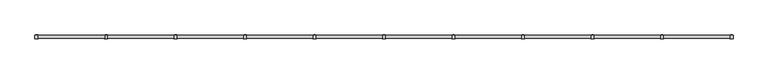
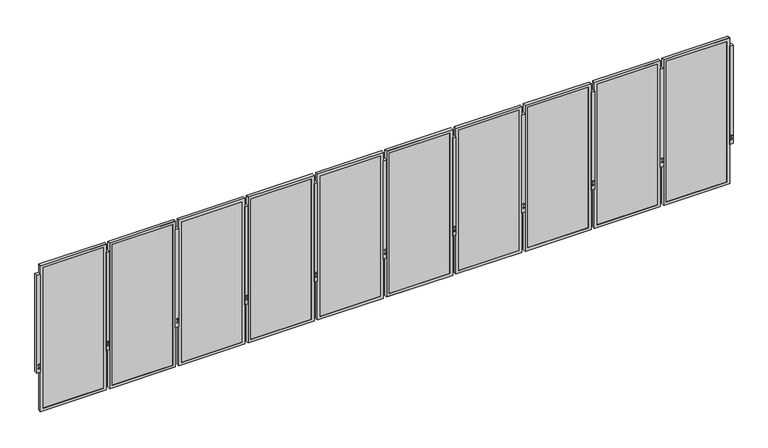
"""IFC4 building model written with IfcOpenShell, lengths in millimetres: railing geometry, Railing - Amico Architectural - Expanded Mesh Railing - Apex04."""

from ifc_helpers import new_model, si_unit, frame, origin, place, context, project, spatial, polyline, outline, extrude, faceted_brep, source, transform, mapped, element, save


def railing_bb2afcd9(model_context):
    return source(origin(), model_context, "Body", "SolidModel", [
        extrude(outline(polyline([(-3162.833702, -25628.979979), (-3112.033702, -25628.979979), (-3112.033702, -25679.779979), (-3162.833702, -25679.779979), (-3162.833702, -25628.979979)])), frame((0.0, 0.0, -609.6), z_axis=(0.0, 0.0, 1.0), x_axis=(1.0, 0.0, 0.0)), (0.0, 0.0, 1.0), 1524.0),
        extrude(outline(polyline([(-530.1129981, -3147.8542722), (-542.3802561, -3144.5672704), (-545.667258, -3132.3000124), (-536.6870019, -3123.3197562), (-524.4197439, -3126.6067581), (-521.132742, -3138.8740161), (-530.1129981, -3147.8542722)])), frame((0.0, -25681.6266668, 0.0), z_axis=(0.0, 1.0, 0.0), x_axis=(0.0, 0.0, 1.0)), (0.0, 0.0, 1.0), 54.4933756),
        extrude(outline(polyline([(-479.3129981, -3147.8542722), (-491.5802561, -3144.5672704), (-494.867258, -3132.3000124), (-485.8870019, -3123.3197562), (-473.6197439, -3126.6067581), (-470.332742, -3138.8740161), (-479.3129981, -3147.8542722)])), frame((0.0, -25681.6266668, 0.0), z_axis=(0.0, 1.0, 0.0), x_axis=(0.0, 0.0, 1.0)), (0.0, 0.0, 1.0), 54.4933756),
        faceted_brep([(-4129.2381554, -25676.173179, -1222.375), (-3160.8631554, -25676.173179, -1222.375), (-3160.8631554, -25676.173179, 1044.575), (-4129.2381554, -25676.173179, 1044.575), (-4087.9631554, -25676.173179, 1003.3), (-3202.1381554, -25676.173179, 1003.3), (-3202.1381554, -25676.173179, -1181.1), (-4087.9631554, -25676.173179, -1181.1), (-4087.9631554, -25673.429979, 1003.3), (-4087.9631554, -25673.429979, -1181.1), (-4129.2381554, -25632.2998825, 1044.575), (-4129.2381554, -25632.2998825, -1222.375), (-4126.0631554, -25632.2998825, 1041.4), (-4126.0631554, -25673.429979, 1041.4), (-4126.0631554, -25673.429979, -1219.2), (-4126.0631554, -25632.2998825, -1219.2), (-3202.1381554, -25673.429979, -1181.1), (-3160.8631554, -25632.2998825, -1222.375), (-3164.0381554, -25673.429979, -1219.2), (-3164.0381554, -25632.2998825, -1219.2), (-3202.1381554, -25673.429979, 1003.3), (-3160.8631554, -25632.2998825, 1044.575), (-3164.0381554, -25673.429979, 1041.4), (-3164.0381554, -25632.2998825, 1041.4)], [[[0, 1, 2, 3], [4, 5, 6, 7]], [[8, 4, 7, 9]], [[3, 10, 11, 0]], [[12, 13, 14, 15]], [[9, 7, 6, 16]], [[0, 11, 17, 1]], [[15, 14, 18, 19]], [[16, 6, 5, 20]], [[1, 17, 21, 2]], [[19, 18, 22, 23]], [[20, 5, 4, 8]], [[10, 21, 17, 11], [15, 19, 23, 12]], [[2, 21, 10, 3]], [[13, 22, 18, 14], [9, 16, 20, 8]], [[23, 22, 13, 12]]]),
        extrude(outline(polyline([(-4126.0631554, -25663.904979), (-3164.0381554, -25663.904979), (-3164.0381554, -25673.429979), (-4126.0631554, -25673.429979), (-4126.0631554, -25663.904979)])), frame((0.0, 0.0, -1219.2), z_axis=(0.0, 0.0, 1.0), x_axis=(1.0, 0.0, 0.0)), (0.0, 0.0, 1.0), 2260.6),
        extrude(outline(polyline([(-4180.421202, -25628.979979), (-4129.621202, -25628.979979), (-4129.621202, -25679.779979), (-4180.421202, -25679.779979), (-4180.421202, -25628.979979)])), frame((0.0, 0.0, -609.6), z_axis=(0.0, 0.0, 1.0), x_axis=(1.0, 0.0, 0.0)), (0.0, 0.0, 1.0), 1524.0),
        extrude(outline(polyline([(-530.1129981, -4165.4417722), (-542.3802561, -4162.1547704), (-545.667258, -4149.8875124), (-536.6870019, -4140.9072562), (-524.4197439, -4144.1942581), (-521.132742, -4156.4615161), (-530.1129981, -4165.4417722)])), frame((0.0, -25681.6266668, 0.0), z_axis=(0.0, 1.0, 0.0), x_axis=(0.0, 0.0, 1.0)), (0.0, 0.0, 1.0), 54.4933756),
        extrude(outline(polyline([(-479.3129981, -4165.4417722), (-491.5802561, -4162.1547704), (-494.867258, -4149.8875124), (-485.8870019, -4140.9072562), (-473.6197439, -4144.1942581), (-470.332742, -4156.4615161), (-479.3129981, -4165.4417722)])), frame((0.0, -25681.6266668, 0.0), z_axis=(0.0, 1.0, 0.0), x_axis=(0.0, 0.0, 1.0)), (0.0, 0.0, 1.0), 54.4933756),
        faceted_brep([(-5146.8256554, -25676.173179, -1222.375), (-4178.4506554, -25676.173179, -1222.375), (-4178.4506554, -25676.173179, 1044.575), (-5146.8256554, -25676.173179, 1044.575), (-5105.5506554, -25676.173179, 1003.3), (-4219.7256554, -25676.173179, 1003.3), (-4219.7256554, -25676.173179, -1181.1), (-5105.5506554, -25676.173179, -1181.1), (-5105.5506554, -25673.429979, 1003.3), (-5105.5506554, -25673.429979, -1181.1), (-5146.8256554, -25632.2998825, 1044.575), (-5146.8256554, -25632.2998825, -1222.375), (-5143.6506554, -25632.2998825, 1041.4), (-5143.6506554, -25673.429979, 1041.4), (-5143.6506554, -25673.429979, -1219.2), (-5143.6506554, -25632.2998825, -1219.2), (-4219.7256554, -25673.429979, -1181.1), (-4178.4506554, -25632.2998825, -1222.375), (-4181.6256554, -25673.429979, -1219.2), (-4181.6256554, -25632.2998825, -1219.2), (-4219.7256554, -25673.429979, 1003.3), (-4178.4506554, -25632.2998825, 1044.575), (-4181.6256554, -25673.429979, 1041.4), (-4181.6256554, -25632.2998825, 1041.4)], [[[0, 1, 2, 3], [4, 5, 6, 7]], [[8, 4, 7, 9]], [[3, 10, 11, 0]], [[12, 13, 14, 15]], [[9, 7, 6, 16]], [[0, 11, 17, 1]], [[15, 14, 18, 19]], [[16, 6, 5, 20]], [[1, 17, 21, 2]], [[19, 18, 22, 23]], [[20, 5, 4, 8]], [[10, 21, 17, 11], [15, 19, 23, 12]], [[2, 21, 10, 3]], [[13, 22, 18, 14], [9, 16, 20, 8]], [[23, 22, 13, 12]]]),
        extrude(outline(polyline([(-5143.6506554, -25663.904979), (-4181.6256554, -25663.904979), (-4181.6256554, -25673.429979), (-5143.6506554, -25673.429979), (-5143.6506554, -25663.904979)])), frame((0.0, 0.0, -1219.2), z_axis=(0.0, 0.0, 1.0), x_axis=(1.0, 0.0, 0.0)), (0.0, 0.0, 1.0), 2260.6),
        extrude(outline(polyline([(-5198.008702, -25628.979979), (-5147.208702, -25628.979979), (-5147.208702, -25679.779979), (-5198.008702, -25679.779979), (-5198.008702, -25628.979979)])), frame((0.0, 0.0, -609.6), z_axis=(0.0, 0.0, 1.0), x_axis=(1.0, 0.0, 0.0)), (0.0, 0.0, 1.0), 1524.0),
        extrude(outline(polyline([(-530.1129981, -5183.0292722), (-542.3802561, -5179.7422704), (-545.667258, -5167.4750124), (-536.6870019, -5158.4947562), (-524.4197439, -5161.7817581), (-521.132742, -5174.0490161), (-530.1129981, -5183.0292722)])), frame((0.0, -25681.6266668, 0.0), z_axis=(0.0, 1.0, 0.0), x_axis=(0.0, 0.0, 1.0)), (0.0, 0.0, 1.0), 54.4933756),
        extrude(outline(polyline([(-479.3129981, -5183.0292722), (-491.5802561, -5179.7422704), (-494.867258, -5167.4750124), (-485.8870019, -5158.4947562), (-473.6197439, -5161.7817581), (-470.332742, -5174.0490161), (-479.3129981, -5183.0292722)])), frame((0.0, -25681.6266668, 0.0), z_axis=(0.0, 1.0, 0.0), x_axis=(0.0, 0.0, 1.0)), (0.0, 0.0, 1.0), 54.4933756),
        faceted_brep([(-6164.4131554, -25676.173179, -1222.375), (-5196.0381554, -25676.173179, -1222.375), (-5196.0381554, -25676.173179, 1044.575), (-6164.4131554, -25676.173179, 1044.575), (-6123.1381554, -25676.173179, 1003.3), (-5237.3131554, -25676.173179, 1003.3), (-5237.3131554, -25676.173179, -1181.1), (-6123.1381554, -25676.173179, -1181.1), (-6123.1381554, -25673.429979, 1003.3), (-6123.1381554, -25673.429979, -1181.1), (-6164.4131554, -25632.2998825, 1044.575), (-6164.4131554, -25632.2998825, -1222.375), (-6161.2381554, -25632.2998825, 1041.4), (-6161.2381554, -25673.429979, 1041.4), (-6161.2381554, -25673.429979, -1219.2), (-6161.2381554, -25632.2998825, -1219.2), (-5237.3131554, -25673.429979, -1181.1), (-5196.0381554, -25632.2998825, -1222.375), (-5199.2131554, -25673.429979, -1219.2), (-5199.2131554, -25632.2998825, -1219.2), (-5237.3131554, -25673.429979, 1003.3), (-5196.0381554, -25632.2998825, 1044.575), (-5199.2131554, -25673.429979, 1041.4), (-5199.2131554, -25632.2998825, 1041.4)], [[[0, 1, 2, 3], [4, 5, 6, 7]], [[8, 4, 7, 9]], [[3, 10, 11, 0]], [[12, 13, 14, 15]], [[9, 7, 6, 16]], [[0, 11, 17, 1]], [[15, 14, 18, 19]], [[16, 6, 5, 20]], [[1, 17, 21, 2]], [[19, 18, 22, 23]], [[20, 5, 4, 8]], [[10, 21, 17, 11], [15, 19, 23, 12]], [[2, 21, 10, 3]], [[13, 22, 18, 14], [9, 16, 20, 8]], [[23, 22, 13, 12]]]),
        extrude(outline(polyline([(-6161.2381554, -25663.904979), (-5199.2131554, -25663.904979), (-5199.2131554, -25673.429979), (-6161.2381554, -25673.429979), (-6161.2381554, -25663.904979)])), frame((0.0, 0.0, -1219.2), z_axis=(0.0, 0.0, 1.0), x_axis=(1.0, 0.0, 0.0)), (0.0, 0.0, 1.0), 2260.6),
        extrude(outline(polyline([(-6215.596202, -25628.979979), (-6164.796202, -25628.979979), (-6164.796202, -25679.779979), (-6215.596202, -25679.779979), (-6215.596202, -25628.979979)])), frame((0.0, 0.0, -609.6), z_axis=(0.0, 0.0, 1.0), x_axis=(1.0, 0.0, 0.0)), (0.0, 0.0, 1.0), 1524.0),
        extrude(outline(polyline([(-530.1129981, -6200.6167722), (-542.3802561, -6197.3297704), (-545.667258, -6185.0625124), (-536.6870019, -6176.0822562), (-524.4197439, -6179.3692581), (-521.132742, -6191.6365161), (-530.1129981, -6200.6167722)])), frame((0.0, -25681.6266668, 0.0), z_axis=(0.0, 1.0, 0.0), x_axis=(0.0, 0.0, 1.0)), (0.0, 0.0, 1.0), 54.4933756),
        extrude(outline(polyline([(-479.3129981, -6200.6167722), (-491.5802561, -6197.3297704), (-494.867258, -6185.0625124), (-485.8870019, -6176.0822562), (-473.6197439, -6179.3692581), (-470.332742, -6191.6365161), (-479.3129981, -6200.6167722)])), frame((0.0, -25681.6266668, 0.0), z_axis=(0.0, 1.0, 0.0), x_axis=(0.0, 0.0, 1.0)), (0.0, 0.0, 1.0), 54.4933756),
        faceted_brep([(-7182.0006554, -25676.173179, -1222.375), (-6213.6256554, -25676.173179, -1222.375), (-6213.6256554, -25676.173179, 1044.575), (-7182.0006554, -25676.173179, 1044.575), (-7140.7256554, -25676.173179, 1003.3), (-6254.9006554, -25676.173179, 1003.3), (-6254.9006554, -25676.173179, -1181.1), (-7140.7256554, -25676.173179, -1181.1), (-7140.7256554, -25673.429979, 1003.3), (-7140.7256554, -25673.429979, -1181.1), (-7182.0006554, -25632.2998825, 1044.575), (-7182.0006554, -25632.2998825, -1222.375), (-7178.8256554, -25632.2998825, 1041.4), (-7178.8256554, -25673.429979, 1041.4), (-7178.8256554, -25673.429979, -1219.2), (-7178.8256554, -25632.2998825, -1219.2), (-6254.9006554, -25673.429979, -1181.1), (-6213.6256554, -25632.2998825, -1222.375), (-6216.8006554, -25673.429979, -1219.2), (-6216.8006554, -25632.2998825, -1219.2), (-6254.9006554, -25673.429979, 1003.3), (-6213.6256554, -25632.2998825, 1044.575), (-6216.8006554, -25673.429979, 1041.4), (-6216.8006554, -25632.2998825, 1041.4)], [[[0, 1, 2, 3], [4, 5, 6, 7]], [[8, 4, 7, 9]], [[3, 10, 11, 0]], [[12, 13, 14, 15]], [[9, 7, 6, 16]], [[0, 11, 17, 1]], [[15, 14, 18, 19]], [[16, 6, 5, 20]], [[1, 17, 21, 2]], [[19, 18, 22, 23]], [[20, 5, 4, 8]], [[10, 21, 17, 11], [15, 19, 23, 12]], [[2, 21, 10, 3]], [[13, 22, 18, 14], [9, 16, 20, 8]], [[23, 22, 13, 12]]]),
        extrude(outline(polyline([(-7178.8256554, -25663.904979), (-6216.8006554, -25663.904979), (-6216.8006554, -25673.429979), (-7178.8256554, -25673.429979), (-7178.8256554, -25663.904979)])), frame((0.0, 0.0, -1219.2), z_axis=(0.0, 0.0, 1.0), x_axis=(1.0, 0.0, 0.0)), (0.0, 0.0, 1.0), 2260.6),
        extrude(outline(polyline([(-7233.183702, -25628.979979), (-7182.383702, -25628.979979), (-7182.383702, -25679.779979), (-7233.183702, -25679.779979), (-7233.183702, -25628.979979)])), frame((0.0, 0.0, -609.6), z_axis=(0.0, 0.0, 1.0), x_axis=(1.0, 0.0, 0.0)), (0.0, 0.0, 1.0), 1524.0),
        extrude(outline(polyline([(-530.1129981, -7218.2042722), (-542.3802561, -7214.9172704), (-545.667258, -7202.6500124), (-536.6870019, -7193.6697562), (-524.4197439, -7196.9567581), (-521.132742, -7209.2240161), (-530.1129981, -7218.2042722)])), frame((0.0, -25681.6266668, 0.0), z_axis=(0.0, 1.0, 0.0), x_axis=(0.0, 0.0, 1.0)), (0.0, 0.0, 1.0), 54.4933756),
        extrude(outline(polyline([(-479.3129981, -7218.2042722), (-491.5802561, -7214.9172704), (-494.867258, -7202.6500124), (-485.8870019, -7193.6697562), (-473.6197439, -7196.9567581), (-470.332742, -7209.2240161), (-479.3129981, -7218.2042722)])), frame((0.0, -25681.6266668, 0.0), z_axis=(0.0, 1.0, 0.0), x_axis=(0.0, 0.0, 1.0)), (0.0, 0.0, 1.0), 54.4933756),
        faceted_brep([(-8199.5881554, -25676.173179, -1222.375), (-7231.2131554, -25676.173179, -1222.375), (-7231.2131554, -25676.173179, 1044.575), (-8199.5881554, -25676.173179, 1044.575), (-8158.3131554, -25676.173179, 1003.3), (-7272.4881554, -25676.173179, 1003.3), (-7272.4881554, -25676.173179, -1181.1), (-8158.3131554, -25676.173179, -1181.1), (-8158.3131554, -25673.429979, 1003.3), (-8158.3131554, -25673.429979, -1181.1), (-8199.5881554, -25632.2998825, 1044.575), (-8199.5881554, -25632.2998825, -1222.375), (-8196.4131554, -25632.2998825, 1041.4), (-8196.4131554, -25673.429979, 1041.4), (-8196.4131554, -25673.429979, -1219.2), (-8196.4131554, -25632.2998825, -1219.2), (-7272.4881554, -25673.429979, -1181.1), (-7231.2131554, -25632.2998825, -1222.375), (-7234.3881554, -25673.429979, -1219.2), (-7234.3881554, -25632.2998825, -1219.2), (-7272.4881554, -25673.429979, 1003.3), (-7231.2131554, -25632.2998825, 1044.575), (-7234.3881554, -25673.429979, 1041.4), (-7234.3881554, -25632.2998825, 1041.4)], [[[0, 1, 2, 3], [4, 5, 6, 7]], [[8, 4, 7, 9]], [[3, 10, 11, 0]], [[12, 13, 14, 15]], [[9, 7, 6, 16]], [[0, 11, 17, 1]], [[15, 14, 18, 19]], [[16, 6, 5, 20]], [[1, 17, 21, 2]], [[19, 18, 22, 23]], [[20, 5, 4, 8]], [[10, 21, 17, 11], [15, 19, 23, 12]], [[2, 21, 10, 3]], [[13, 22, 18, 14], [9, 16, 20, 8]], [[23, 22, 13, 12]]]),
        extrude(outline(polyline([(-8196.4131554, -25663.904979), (-7234.3881554, -25663.904979), (-7234.3881554, -25673.429979), (-8196.4131554, -25673.429979), (-8196.4131554, -25663.904979)])), frame((0.0, 0.0, -1219.2), z_axis=(0.0, 0.0, 1.0), x_axis=(1.0, 0.0, 0.0)), (0.0, 0.0, 1.0), 2260.6),
        extrude(outline(polyline([(-8250.771202, -25628.979979), (-8199.971202, -25628.979979), (-8199.971202, -25679.779979), (-8250.771202, -25679.779979), (-8250.771202, -25628.979979)])), frame((0.0, 0.0, -609.6), z_axis=(0.0, 0.0, 1.0), x_axis=(1.0, 0.0, 0.0)), (0.0, 0.0, 1.0), 1524.0),
        extrude(outline(polyline([(-530.1129981, -8235.7917722), (-542.3802561, -8232.5047704), (-545.667258, -8220.2375124), (-536.6870019, -8211.2572562), (-524.4197439, -8214.5442581), (-521.132742, -8226.8115161), (-530.1129981, -8235.7917722)])), frame((0.0, -25681.6266668, 0.0), z_axis=(0.0, 1.0, 0.0), x_axis=(0.0, 0.0, 1.0)), (0.0, 0.0, 1.0), 54.4933756),
        extrude(outline(polyline([(-479.3129981, -8235.7917722), (-491.5802561, -8232.5047704), (-494.867258, -8220.2375124), (-485.8870019, -8211.2572562), (-473.6197439, -8214.5442581), (-470.332742, -8226.8115161), (-479.3129981, -8235.7917722)])), frame((0.0, -25681.6266668, 0.0), z_axis=(0.0, 1.0, 0.0), x_axis=(0.0, 0.0, 1.0)), (0.0, 0.0, 1.0), 54.4933756),
        faceted_brep([(-9217.1756554, -25676.173179, -1222.375), (-8248.8006554, -25676.173179, -1222.375), (-8248.8006554, -25676.173179, 1044.575), (-9217.1756554, -25676.173179, 1044.575), (-9175.9006554, -25676.173179, 1003.3), (-8290.0756554, -25676.173179, 1003.3), (-8290.0756554, -25676.173179, -1181.1), (-9175.9006554, -25676.173179, -1181.1), (-9175.9006554, -25673.429979, 1003.3), (-9175.9006554, -25673.429979, -1181.1), (-9217.1756554, -25632.2998825, 1044.575), (-9217.1756554, -25632.2998825, -1222.375), (-9214.0006554, -25632.2998825, 1041.4), (-9214.0006554, -25673.429979, 1041.4), (-9214.0006554, -25673.429979, -1219.2), (-9214.0006554, -25632.2998825, -1219.2), (-8290.0756554, -25673.429979, -1181.1), (-8248.8006554, -25632.2998825, -1222.375), (-8251.9756554, -25673.429979, -1219.2), (-8251.9756554, -25632.2998825, -1219.2), (-8290.0756554, -25673.429979, 1003.3), (-8248.8006554, -25632.2998825, 1044.575), (-8251.9756554, -25673.429979, 1041.4), (-8251.9756554, -25632.2998825, 1041.4)], [[[0, 1, 2, 3], [4, 5, 6, 7]], [[8, 4, 7, 9]], [[3, 10, 11, 0]], [[12, 13, 14, 15]], [[9, 7, 6, 16]], [[0, 11, 17, 1]], [[15, 14, 18, 19]], [[16, 6, 5, 20]], [[1, 17, 21, 2]], [[19, 18, 22, 23]], [[20, 5, 4, 8]], [[10, 21, 17, 11], [15, 19, 23, 12]], [[2, 21, 10, 3]], [[13, 22, 18, 14], [9, 16, 20, 8]], [[23, 22, 13, 12]]]),
        extrude(outline(polyline([(-9214.0006554, -25663.904979), (-8251.9756554, -25663.904979), (-8251.9756554, -25673.429979), (-9214.0006554, -25673.429979), (-9214.0006554, -25663.904979)])), frame((0.0, 0.0, -1219.2), z_axis=(0.0, 0.0, 1.0), x_axis=(1.0, 0.0, 0.0)), (0.0, 0.0, 1.0), 2260.6),
        extrude(outline(polyline([(-9268.358702, -25628.979979), (-9217.558702, -25628.979979), (-9217.558702, -25679.779979), (-9268.358702, -25679.779979), (-9268.358702, -25628.979979)])), frame((0.0, 0.0, -609.6), z_axis=(0.0, 0.0, 1.0), x_axis=(1.0, 0.0, 0.0)), (0.0, 0.0, 1.0), 1524.0),
        extrude(outline(polyline([(-530.1129981, -9253.3792722), (-542.3802561, -9250.0922704), (-545.667258, -9237.8250124), (-536.6870019, -9228.8447562), (-524.4197439, -9232.1317581), (-521.132742, -9244.3990161), (-530.1129981, -9253.3792722)])), frame((0.0, -25681.6266668, 0.0), z_axis=(0.0, 1.0, 0.0), x_axis=(0.0, 0.0, 1.0)), (0.0, 0.0, 1.0), 54.4933756),
        extrude(outline(polyline([(-479.3129981, -9253.3792722), (-491.5802561, -9250.0922704), (-494.867258, -9237.8250124), (-485.8870019, -9228.8447562), (-473.6197439, -9232.1317581), (-470.332742, -9244.3990161), (-479.3129981, -9253.3792722)])), frame((0.0, -25681.6266668, 0.0), z_axis=(0.0, 1.0, 0.0), x_axis=(0.0, 0.0, 1.0)), (0.0, 0.0, 1.0), 54.4933756),
        faceted_brep([(-10234.7631554, -25676.173179, -1222.375), (-9266.3881554, -25676.173179, -1222.375), (-9266.3881554, -25676.173179, 1044.575), (-10234.7631554, -25676.173179, 1044.575), (-10193.4881554, -25676.173179, 1003.3), (-9307.6631554, -25676.173179, 1003.3), (-9307.6631554, -25676.173179, -1181.1), (-10193.4881554, -25676.173179, -1181.1), (-10193.4881554, -25673.429979, 1003.3), (-10193.4881554, -25673.429979, -1181.1), (-10234.7631554, -25632.2998825, 1044.575), (-10234.7631554, -25632.2998825, -1222.375), (-10231.5881554, -25632.2998825, 1041.4), (-10231.5881554, -25673.429979, 1041.4), (-10231.5881554, -25673.429979, -1219.2), (-10231.5881554, -25632.2998825, -1219.2), (-9307.6631554, -25673.429979, -1181.1), (-9266.3881554, -25632.2998825, -1222.375), (-9269.5631554, -25673.429979, -1219.2), (-9269.5631554, -25632.2998825, -1219.2), (-9307.6631554, -25673.429979, 1003.3), (-9266.3881554, -25632.2998825, 1044.575), (-9269.5631554, -25673.429979, 1041.4), (-9269.5631554, -25632.2998825, 1041.4)], [[[0, 1, 2, 3], [4, 5, 6, 7]], [[8, 4, 7, 9]], [[3, 10, 11, 0]], [[12, 13, 14, 15]], [[9, 7, 6, 16]], [[0, 11, 17, 1]], [[15, 14, 18, 19]], [[16, 6, 5, 20]], [[1, 17, 21, 2]], [[19, 18, 22, 23]], [[20, 5, 4, 8]], [[10, 21, 17, 11], [15, 19, 23, 12]], [[2, 21, 10, 3]], [[13, 22, 18, 14], [9, 16, 20, 8]], [[23, 22, 13, 12]]]),
        extrude(outline(polyline([(-10231.5881554, -25663.904979), (-9269.5631554, -25663.904979), (-9269.5631554, -25673.429979), (-10231.5881554, -25673.429979), (-10231.5881554, -25663.904979)])), frame((0.0, 0.0, -1219.2), z_axis=(0.0, 0.0, 1.0), x_axis=(1.0, 0.0, 0.0)), (0.0, 0.0, 1.0), 2260.6),
        extrude(outline(polyline([(-10285.946202, -25628.979979), (-10235.146202, -25628.979979), (-10235.146202, -25679.779979), (-10285.946202, -25679.779979), (-10285.946202, -25628.979979)])), frame((0.0, 0.0, -609.6), z_axis=(0.0, 0.0, 1.0), x_axis=(1.0, 0.0, 0.0)), (0.0, 0.0, 1.0), 1524.0),
        extrude(outline(polyline([(-530.1129981, -10270.9667722), (-542.3802561, -10267.6797704), (-545.667258, -10255.4125124), (-536.6870019, -10246.4322562), (-524.4197439, -10249.7192581), (-521.132742, -10261.9865161), (-530.1129981, -10270.9667722)])), frame((0.0, -25681.6266668, 0.0), z_axis=(0.0, 1.0, 0.0), x_axis=(0.0, 0.0, 1.0)), (0.0, 0.0, 1.0), 54.4933756),
        extrude(outline(polyline([(-479.3129981, -10270.9667722), (-491.5802561, -10267.6797704), (-494.867258, -10255.4125124), (-485.8870019, -10246.4322562), (-473.6197439, -10249.7192581), (-470.332742, -10261.9865161), (-479.3129981, -10270.9667722)])), frame((0.0, -25681.6266668, 0.0), z_axis=(0.0, 1.0, 0.0), x_axis=(0.0, 0.0, 1.0)), (0.0, 0.0, 1.0), 54.4933756),
        faceted_brep([(-11252.3506554, -25676.173179, -1222.375), (-10283.9756554, -25676.173179, -1222.375), (-10283.9756554, -25676.173179, 1044.575), (-11252.3506554, -25676.173179, 1044.575), (-11211.0756554, -25676.173179, 1003.3), (-10325.2506554, -25676.173179, 1003.3), (-10325.2506554, -25676.173179, -1181.1), (-11211.0756554, -25676.173179, -1181.1), (-11211.0756554, -25673.429979, 1003.3), (-11211.0756554, -25673.429979, -1181.1), (-11252.3506554, -25632.2998825, 1044.575), (-11252.3506554, -25632.2998825, -1222.375), (-11249.1756554, -25632.2998825, 1041.4), (-11249.1756554, -25673.429979, 1041.4), (-11249.1756554, -25673.429979, -1219.2), (-11249.1756554, -25632.2998825, -1219.2), (-10325.2506554, -25673.429979, -1181.1), (-10283.9756554, -25632.2998825, -1222.375), (-10287.1506554, -25673.429979, -1219.2), (-10287.1506554, -25632.2998825, -1219.2), (-10325.2506554, -25673.429979, 1003.3), (-10283.9756554, -25632.2998825, 1044.575), (-10287.1506554, -25673.429979, 1041.4), (-10287.1506554, -25632.2998825, 1041.4)], [[[0, 1, 2, 3], [4, 5, 6, 7]], [[8, 4, 7, 9]], [[3, 10, 11, 0]], [[12, 13, 14, 15]], [[9, 7, 6, 16]], [[0, 11, 17, 1]], [[15, 14, 18, 19]], [[16, 6, 5, 20]], [[1, 17, 21, 2]], [[19, 18, 22, 23]], [[20, 5, 4, 8]], [[10, 21, 17, 11], [15, 19, 23, 12]], [[2, 21, 10, 3]], [[13, 22, 18, 14], [9, 16, 20, 8]], [[23, 22, 13, 12]]]),
        extrude(outline(polyline([(-11249.1756554, -25663.904979), (-10287.1506554, -25663.904979), (-10287.1506554, -25673.429979), (-11249.1756554, -25673.429979), (-11249.1756554, -25663.904979)])), frame((0.0, 0.0, -1219.2), z_axis=(0.0, 0.0, 1.0), x_axis=(1.0, 0.0, 0.0)), (0.0, 0.0, 1.0), 2260.6),
        extrude(outline(polyline([(-11303.533702, -25628.979979), (-11252.733702, -25628.979979), (-11252.733702, -25679.779979), (-11303.533702, -25679.779979), (-11303.533702, -25628.979979)])), frame((0.0, 0.0, -609.6), z_axis=(0.0, 0.0, 1.0), x_axis=(1.0, 0.0, 0.0)), (0.0, 0.0, 1.0), 1524.0),
        extrude(outline(polyline([(-530.1129981, -11288.5542722), (-542.3802561, -11285.2672704), (-545.667258, -11273.0000124), (-536.6870019, -11264.0197562), (-524.4197439, -11267.3067581), (-521.132742, -11279.5740161), (-530.1129981, -11288.5542722)])), frame((0.0, -25681.6266668, 0.0), z_axis=(0.0, 1.0, 0.0), x_axis=(0.0, 0.0, 1.0)), (0.0, 0.0, 1.0), 54.4933756),
        extrude(outline(polyline([(-479.3129981, -11288.5542722), (-491.5802561, -11285.2672704), (-494.867258, -11273.0000124), (-485.8870019, -11264.0197562), (-473.6197439, -11267.3067581), (-470.332742, -11279.5740161), (-479.3129981, -11288.5542722)])), frame((0.0, -25681.6266668, 0.0), z_axis=(0.0, 1.0, 0.0), x_axis=(0.0, 0.0, 1.0)), (0.0, 0.0, 1.0), 54.4933756),
        faceted_brep([(-12269.9381554, -25676.173179, -1222.375), (-11301.5631554, -25676.173179, -1222.375), (-11301.5631554, -25676.173179, 1044.575), (-12269.9381554, -25676.173179, 1044.575), (-12228.6631554, -25676.173179, 1003.3), (-11342.8381554, -25676.173179, 1003.3), (-11342.8381554, -25676.173179, -1181.1), (-12228.6631554, -25676.173179, -1181.1), (-12228.6631554, -25673.429979, 1003.3), (-12228.6631554, -25673.429979, -1181.1), (-12269.9381554, -25632.2998825, 1044.575), (-12269.9381554, -25632.2998825, -1222.375), (-12266.7631554, -25632.2998825, 1041.4), (-12266.7631554, -25673.429979, 1041.4), (-12266.7631554, -25673.429979, -1219.2), (-12266.7631554, -25632.2998825, -1219.2), (-11342.8381554, -25673.429979, -1181.1), (-11301.5631554, -25632.2998825, -1222.375), (-11304.7381554, -25673.429979, -1219.2), (-11304.7381554, -25632.2998825, -1219.2), (-11342.8381554, -25673.429979, 1003.3), (-11301.5631554, -25632.2998825, 1044.575), (-11304.7381554, -25673.429979, 1041.4), (-11304.7381554, -25632.2998825, 1041.4)], [[[0, 1, 2, 3], [4, 5, 6, 7]], [[8, 4, 7, 9]], [[3, 10, 11, 0]], [[12, 13, 14, 15]], [[9, 7, 6, 16]], [[0, 11, 17, 1]], [[15, 14, 18, 19]], [[16, 6, 5, 20]], [[1, 17, 21, 2]], [[19, 18, 22, 23]], [[20, 5, 4, 8]], [[10, 21, 17, 11], [15, 19, 23, 12]], [[2, 21, 10, 3]], [[13, 22, 18, 14], [9, 16, 20, 8]], [[23, 22, 13, 12]]]),
        extrude(outline(polyline([(-12266.7631554, -25663.904979), (-11304.7381554, -25663.904979), (-11304.7381554, -25673.429979), (-12266.7631554, -25673.429979), (-12266.7631554, -25663.904979)])), frame((0.0, 0.0, -1219.2), z_axis=(0.0, 0.0, 1.0), x_axis=(1.0, 0.0, 0.0)), (0.0, 0.0, 1.0), 2260.6),
        extrude(outline(polyline([(-12321.121202, -25628.979979), (-12270.321202, -25628.979979), (-12270.321202, -25679.779979), (-12321.121202, -25679.779979), (-12321.121202, -25628.979979)])), frame((0.0, 0.0, -609.6), z_axis=(0.0, 0.0, 1.0), x_axis=(1.0, 0.0, 0.0)), (0.0, 0.0, 1.0), 1524.0),
        extrude(outline(polyline([(-530.1129981, -12306.1417722), (-542.3802561, -12302.8547704), (-545.667258, -12290.5875124), (-536.6870019, -12281.6072562), (-524.4197439, -12284.8942581), (-521.132742, -12297.1615161), (-530.1129981, -12306.1417722)])), frame((0.0, -25681.6266668, 0.0), z_axis=(0.0, 1.0, 0.0), x_axis=(0.0, 0.0, 1.0)), (0.0, 0.0, 1.0), 54.4933756),
        extrude(outline(polyline([(-479.3129981, -12306.1417722), (-491.5802561, -12302.8547704), (-494.867258, -12290.5875124), (-485.8870019, -12281.6072562), (-473.6197439, -12284.8942581), (-470.332742, -12297.1615161), (-479.3129981, -12306.1417722)])), frame((0.0, -25681.6266668, 0.0), z_axis=(0.0, 1.0, 0.0), x_axis=(0.0, 0.0, 1.0)), (0.0, 0.0, 1.0), 54.4933756),
        faceted_brep([(-13287.5256554, -25676.173179, -1222.375), (-12319.1506554, -25676.173179, -1222.375), (-12319.1506554, -25676.173179, 1044.575), (-13287.5256554, -25676.173179, 1044.575), (-13246.2506554, -25676.173179, 1003.3), (-12360.4256554, -25676.173179, 1003.3), (-12360.4256554, -25676.173179, -1181.1), (-13246.2506554, -25676.173179, -1181.1), (-13246.2506554, -25673.429979, 1003.3), (-13246.2506554, -25673.429979, -1181.1), (-13287.5256554, -25632.2998825, 1044.575), (-13287.5256554, -25632.2998825, -1222.375), (-13284.3506554, -25632.2998825, 1041.4), (-13284.3506554, -25673.429979, 1041.4), (-13284.3506554, -25673.429979, -1219.2), (-13284.3506554, -25632.2998825, -1219.2), (-12360.4256554, -25673.429979, -1181.1), (-12319.1506554, -25632.2998825, -1222.375), (-12322.3256554, -25673.429979, -1219.2), (-12322.3256554, -25632.2998825, -1219.2), (-12360.4256554, -25673.429979, 1003.3), (-12319.1506554, -25632.2998825, 1044.575), (-12322.3256554, -25673.429979, 1041.4), (-12322.3256554, -25632.2998825, 1041.4)], [[[0, 1, 2, 3], [4, 5, 6, 7]], [[8, 4, 7, 9]], [[3, 10, 11, 0]], [[12, 13, 14, 15]], [[9, 7, 6, 16]], [[0, 11, 17, 1]], [[15, 14, 18, 19]], [[16, 6, 5, 20]], [[1, 17, 21, 2]], [[19, 18, 22, 23]], [[20, 5, 4, 8]], [[10, 21, 17, 11], [15, 19, 23, 12]], [[2, 21, 10, 3]], [[13, 22, 18, 14], [9, 16, 20, 8]], [[23, 22, 13, 12]]]),
        extrude(outline(polyline([(-13284.3506554, -25663.904979), (-12322.3256554, -25663.904979), (-12322.3256554, -25673.429979), (-13284.3506554, -25673.429979), (-13284.3506554, -25663.904979)])), frame((0.0, 0.0, -1219.2), z_axis=(0.0, 0.0, 1.0), x_axis=(1.0, 0.0, 0.0)), (0.0, 0.0, 1.0), 2260.6),
        extrude(outline(polyline([(-13338.708702, -25628.979979), (-13287.908702, -25628.979979), (-13287.908702, -25679.779979), (-13338.708702, -25679.779979), (-13338.708702, -25628.979979)])), frame((0.0, 0.0, -609.6), z_axis=(0.0, 0.0, 1.0), x_axis=(1.0, 0.0, 0.0)), (0.0, 0.0, 1.0), 1524.0),
        extrude(outline(polyline([(-530.1129981, -13323.7292722), (-542.3802561, -13320.4422704), (-545.667258, -13308.1750124), (-536.6870019, -13299.1947562), (-524.4197439, -13302.4817581), (-521.132742, -13314.7490161), (-530.1129981, -13323.7292722)])), frame((0.0, -25681.6266668, 0.0), z_axis=(0.0, 1.0, 0.0), x_axis=(0.0, 0.0, 1.0)), (0.0, 0.0, 1.0), 54.4933756),
        extrude(outline(polyline([(-479.3129981, -13323.7292722), (-491.5802561, -13320.4422704), (-494.867258, -13308.1750124), (-485.8870019, -13299.1947562), (-473.6197439, -13302.4817581), (-470.332742, -13314.7490161), (-479.3129981, -13323.7292722)])), frame((0.0, -25681.6266668, 0.0), z_axis=(0.0, 1.0, 0.0), x_axis=(0.0, 0.0, 1.0)), (0.0, 0.0, 1.0), 54.4933756),
    ])


if __name__ == "__main__":
    model = new_model("IFC4")
    model_context = context("Model", 3, world=origin())
    ifc_project = project(units=[si_unit("LENGTHUNIT", "METRE", prefix="MILLI")], contexts=[model_context])
    site = spatial("IfcSite", under=ifc_project)
    building = spatial("IfcBuilding", under=site)
    placement = place(None, origin())
    railing_shape = railing_bb2afcd9(model_context)
    element("IfcRailing", 1, ObjectType="Railing - Amico Architectural - Expanded Mesh Railing - Apex04", at=placement, inside=building, context=model_context, shape_type="MappedRepresentation", body=[
        mapped(railing_shape, transform((0.0, 0.0, 0.0), x_axis=(1.0, 0.0, 0.0), y_axis=(0.0, 1.0, 0.0), z_axis=(0.0, 0.0, 1.0))),
    ])
    save(model, "model.ifc")
